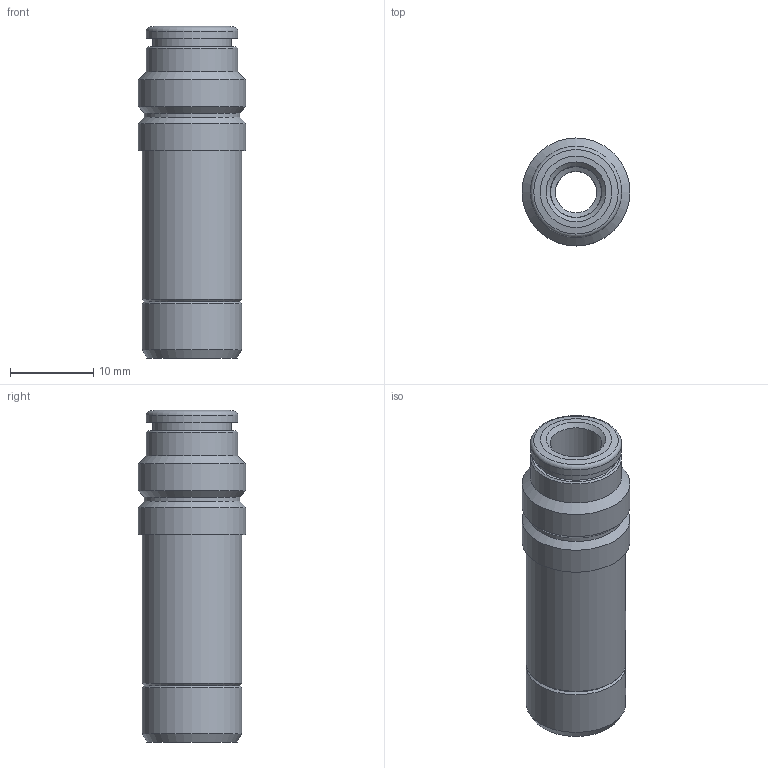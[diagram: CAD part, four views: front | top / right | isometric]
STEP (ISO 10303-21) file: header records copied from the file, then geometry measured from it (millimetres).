
FILE_DESCRIPTION(('Bauteilbeschreibung','HiCAD-Model','HiCAD-STEP-TRANSLATION','Bauteilbeschreibung'),'2;1');
FILE_NAME('B:/ABGLEICH/ZEICHNUNGEN/STEP FÜR INTERNET/STEP/IPSO 08/200810_IPSO_08_12_6.STP','2012-03-13T17:07:04+00:00',('Konstrukteur'),('Konstrukteur Firma GmbH'),' HiCAD neXt 2008, Step 3.1.1401.2J ','HiCAD neXt 2008','confidential');
FILE_SCHEMA(('AUTOMOTIVE_DESIGN { 1 2 10303 214 0 1 1 1 }'));
Length unit declared in the file: millimetre
Products named in the file (3): A00810_IPSO_08_12_6; R200810_N; DR6_1_NEU
Assembly tree (2 placements, depth 2):
  A00810_IPSO_08_12_6
    R200810_N
    DR6_1_NEU
Bounding box: 13 x 13 x 40 mm (x, y, z)
Volume: 3379.1 mm3; surface area: 2901.7 mm2
Topology: 2 solids, 2 shells, 37 faces, 69 edges, 39 vertices
Faces by surface type: cone 15, cylinder 14, plane 7, torus 1
Full cylindrical faces by diameter (mm): 5 x1, 6.1 x1, 6.2 x1, 8.3 x1, 9 x1, 9.5 x1, 9.6 x1, 11 x2, 11.5 x1, 12 x2, 13 x2
Entity records: 1013 total; most frequent: DIRECTION 156, CARTESIAN_POINT 115, AXIS2_PLACEMENT_3D 78, EDGE_LOOP 74, ORIENTED_EDGE 74, COLOUR_RGB 39, PRESENTATION_STYLE_ASSIGNMENT 39, ADVANCED_FACE 37
